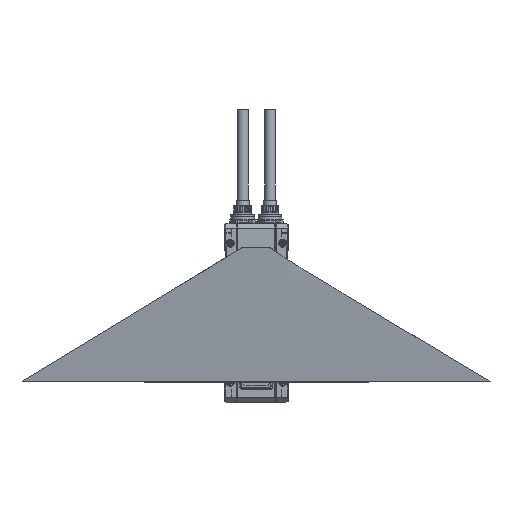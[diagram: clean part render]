
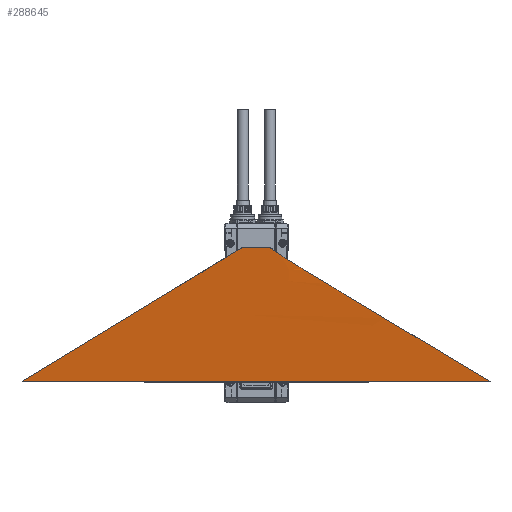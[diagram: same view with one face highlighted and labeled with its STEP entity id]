
A CAD part, top view. The second image highlights one B-rep face of the part: STEP entity #288645.
In plain terms, the highlighted free-form (B-spline) face has degree [3, 1] with [12, 2] control points.
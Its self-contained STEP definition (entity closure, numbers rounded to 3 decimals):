
#659 = B_SPLINE_SURFACE_WITH_KNOTS ( 'NONE', 3, 1, ( 
 ( #20718, #2724 ),
 ( #209576, #301997 ),
 ( #117157, #276285 ),
 ( #360961, #335381 ),
 ( #150604, #154520 ),
 ( #327620, #357106 ),
 ( #119085, #63964 ),
 ( #364824, #388519 ),
 ( #65879, #60027 ),
 ( #183975, #303943 ),
 ( #121025, #93438 ),
 ( #185893, #91496 ) ),
 .UNSPECIFIED., .F., .F., .F.,
 ( 4, 1, 1, 1, 2, 1, 1, 1, 4 ),
 ( 2, 2 ),
 ( 0., 0.221, 0.442, 0.663, 0.884, 0.913, 0.942, 0.971, 1. ),
 ( 0., 1. ),
 .UNSPECIFIED. ) ;
#2724 = CARTESIAN_POINT ( 'NONE',  ( -8.5, 84., -310.258 ) ) ;
#3311 = VECTOR ( 'NONE', #118631, 1000. ) ;
#9664 = VERTEX_POINT ( 'NONE', #215265 ) ;
#10787 = CARTESIAN_POINT ( 'NONE',  ( -77.25, 42., -80.129 ) ) ;
#11446 = EDGE_LOOP ( 'NONE', ( #267858, #131550, #293709, #67640, #338063 ) ) ;
#20718 = CARTESIAN_POINT ( 'NONE',  ( -146., 0., 150. ) ) ;
#21758 = CARTESIAN_POINT ( 'NONE',  ( 78., 41.25, -80.129 ) ) ;
#47770 = VERTEX_POINT ( 'NONE', #343835 ) ;
#49501 = CARTESIAN_POINT ( 'NONE',  ( 8.5, 82.5, -310.258 ) ) ;
#51477 = DIRECTION ( 'NONE',  ( 0., 0., 1. ) ) ;
#60027 = CARTESIAN_POINT ( 'NONE',  ( 9.59, 83.59, -310.258 ) ) ;
#63964 = CARTESIAN_POINT ( 'NONE',  ( 8.687, 84., -310.258 ) ) ;
#65879 = CARTESIAN_POINT ( 'NONE',  ( 129.803, 0., 150. ) ) ;
#67640 = ORIENTED_EDGE ( 'NONE', *, *, #97179, .T. ) ;
#74706 = VECTOR ( 'NONE', #295256, 1000. ) ;
#88214 = VECTOR ( 'NONE', #179323, 1000. ) ;
#91496 = CARTESIAN_POINT ( 'NONE',  ( 10., 82.5, -310.258 ) ) ;
#93438 = CARTESIAN_POINT ( 'NONE',  ( 10., 82.687, -310.258 ) ) ;
#94277 = AXIS2_PLACEMENT_3D ( 'NONE', #49501, #51477, #383897 ) ;
#97179 = EDGE_CURVE ( 'NONE', #186760, #47770, #328812, .T. ) ;
#104883 = EDGE_CURVE ( 'NONE', #9664, #47770, #280485, .T. ) ;
#117157 = CARTESIAN_POINT ( 'NONE',  ( -81.292, 0., 150. ) ) ;
#118631 = DIRECTION ( 'NONE',  ( 1., 0., 0. ) ) ;
#119085 = CARTESIAN_POINT ( 'NONE',  ( 116.433, 0., 150. ) ) ;
#121025 = CARTESIAN_POINT ( 'NONE',  ( 143.173, 0., 150. ) ) ;
#121174 = CARTESIAN_POINT ( 'NONE',  ( 8.5, 84., -310.258 ) ) ;
#127430 = VECTOR ( 'NONE', #250812, 1000. ) ;
#131550 = ORIENTED_EDGE ( 'NONE', *, *, #219180, .T. ) ;
#150137 = CARTESIAN_POINT ( 'NONE',  ( -146., 0., 150. ) ) ;
#150604 = CARTESIAN_POINT ( 'NONE',  ( 48.898, 0., 150. ) ) ;
#154520 = CARTESIAN_POINT ( 'NONE',  ( 4.237, 84., -310.258 ) ) ;
#158777 = EDGE_CURVE ( 'NONE', #9664, #219538, #205235, .T. ) ;
#167782 = EDGE_CURVE ( 'NONE', #246424, #186760, #339170, .T. ) ;
#171494 = LINE ( 'NONE', #21758, #74706 ) ;
#179323 = DIRECTION ( 'NONE',  ( -1., 0., 0. ) ) ;
#183975 = CARTESIAN_POINT ( 'NONE',  ( 137.722, 0., 150. ) ) ;
#185893 = CARTESIAN_POINT ( 'NONE',  ( 146., 0., 150. ) ) ;
#186760 = VERTEX_POINT ( 'NONE', #121174 ) ;
#205235 = LINE ( 'NONE', #150137, #3311 ) ;
#209576 = CARTESIAN_POINT ( 'NONE',  ( -124.494, 0., 150. ) ) ;
#215265 = CARTESIAN_POINT ( 'NONE',  ( -146., 0., 150. ) ) ;
#215928 = CARTESIAN_POINT ( 'NONE',  ( 146., 0., 150. ) ) ;
#219180 = EDGE_CURVE ( 'NONE', #219538, #246424, #171494, .T. ) ;
#219538 = VERTEX_POINT ( 'NONE', #215928 ) ;
#231190 = CARTESIAN_POINT ( 'NONE',  ( 10., 82.5, -310.258 ) ) ;
#246424 = VERTEX_POINT ( 'NONE', #231190 ) ;
#250812 = DIRECTION ( 'NONE',  ( 0.282, 0.172, -0.944 ) ) ;
#267858 = ORIENTED_EDGE ( 'NONE', *, *, #158777, .T. ) ;
#276285 = CARTESIAN_POINT ( 'NONE',  ( -4.237, 84., -310.258 ) ) ;
#280485 = LINE ( 'NONE', #10787, #127430 ) ;
#288645 = ADVANCED_FACE ( 'NONE', ( #319841 ), #659, .T. ) ;
#293709 = ORIENTED_EDGE ( 'NONE', *, *, #167782, .T. ) ;
#295256 = DIRECTION ( 'NONE',  ( -0.279, 0.169, -0.945 ) ) ;
#301997 = CARTESIAN_POINT ( 'NONE',  ( -7.074, 84., -310.258 ) ) ;
#303943 = CARTESIAN_POINT ( 'NONE',  ( 9.928, 83.075, -310.258 ) ) ;
#319841 = FACE_OUTER_BOUND ( 'NONE', #11446, .T. ) ;
#323009 = CARTESIAN_POINT ( 'NONE',  ( -8.5, 84., -310.258 ) ) ;
#327620 = CARTESIAN_POINT ( 'NONE',  ( 92.1, 0., 150. ) ) ;
#328812 = LINE ( 'NONE', #323009, #88214 ) ;
#335381 = CARTESIAN_POINT ( 'NONE',  ( 0., 84., -310.258 ) ) ;
#338063 = ORIENTED_EDGE ( 'NONE', *, *, #104883, .F. ) ;
#339170 = CIRCLE ( 'NONE', #94277, 1.5 ) ;
#343835 = CARTESIAN_POINT ( 'NONE',  ( -8.5, 84., -310.258 ) ) ;
#357106 = CARTESIAN_POINT ( 'NONE',  ( 7.074, 84., -310.258 ) ) ;
#360961 = CARTESIAN_POINT ( 'NONE',  ( -16.197, 0., 150. ) ) ;
#364824 = CARTESIAN_POINT ( 'NONE',  ( 121.883, 0., 150. ) ) ;
#383897 = DIRECTION ( 'NONE',  ( 1., 0., 0. ) ) ;
#388519 = CARTESIAN_POINT ( 'NONE',  ( 9.075, 83.928, -310.258 ) ) ;
